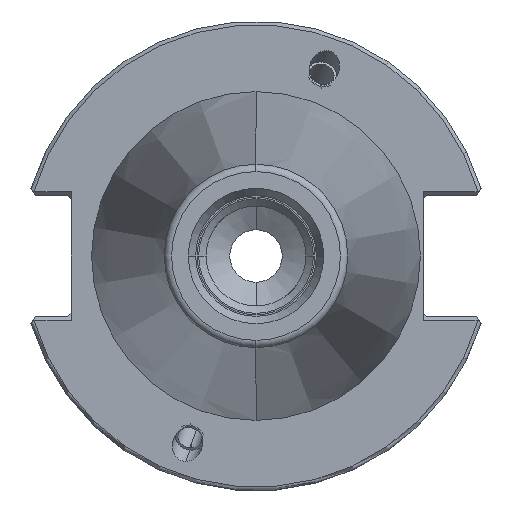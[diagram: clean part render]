
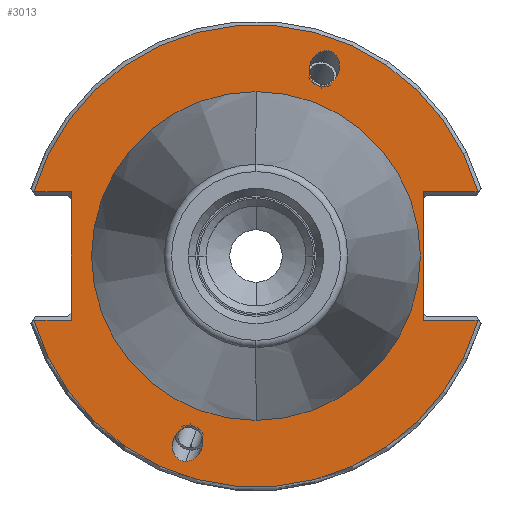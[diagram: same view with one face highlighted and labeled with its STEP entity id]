
A CAD part, left-side view. The second image highlights one B-rep face of the part: STEP entity #3013.
In plain terms, the highlighted planar face has unit normal (-1, 0, 0).
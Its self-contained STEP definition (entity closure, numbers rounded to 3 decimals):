
#116=CARTESIAN_POINT('',(3.175,0.,0.));
#117=DIRECTION('',(1.,0.,0.));
#118=DIRECTION('',(0.,1.,0.));
#119=AXIS2_PLACEMENT_3D('',#116,#117,#118);
#121=CARTESIAN_POINT('',(3.175,0.,0.));
#122=DIRECTION('',(1.,0.,0.));
#123=DIRECTION('',(0.,-1.,0.));
#124=AXIS2_PLACEMENT_3D('',#121,#122,#123);
#126=CARTESIAN_POINT('',(3.175,9.498,-27.766));
#127=CARTESIAN_POINT('',(3.175,9.257,-27.766));
#128=CARTESIAN_POINT('',(3.175,8.727,-27.663));
#129=CARTESIAN_POINT('',(3.175,7.941,-27.117));
#130=CARTESIAN_POINT('',(3.175,7.379,-26.257));
#131=CARTESIAN_POINT('',(3.175,7.151,-25.372));
#132=CARTESIAN_POINT('',(3.175,7.185,-24.486));
#133=CARTESIAN_POINT('',(3.175,7.557,-23.627));
#134=CARTESIAN_POINT('',(3.175,8.223,-23.08));
#135=CARTESIAN_POINT('',(3.175,8.731,-22.978));
#136=CARTESIAN_POINT('',(3.175,8.971,-22.978));
#138=CARTESIAN_POINT('',(3.175,8.971,-22.978));
#139=CARTESIAN_POINT('',(3.175,9.212,-22.978));
#140=CARTESIAN_POINT('',(3.175,9.742,-23.08));
#141=CARTESIAN_POINT('',(3.175,10.528,-23.627));
#142=CARTESIAN_POINT('',(3.175,11.09,-24.486));
#143=CARTESIAN_POINT('',(3.175,11.318,-25.372));
#144=CARTESIAN_POINT('',(3.175,11.284,-26.257));
#145=CARTESIAN_POINT('',(3.175,10.912,-27.117));
#146=CARTESIAN_POINT('',(3.175,10.246,-27.663));
#147=CARTESIAN_POINT('',(3.175,9.738,-27.766));
#148=CARTESIAN_POINT('',(3.175,9.498,-27.766));
#150=CARTESIAN_POINT('',(3.175,-9.498,27.766));
#151=CARTESIAN_POINT('',(3.175,-9.257,27.766));
#152=CARTESIAN_POINT('',(3.175,-8.727,27.663));
#153=CARTESIAN_POINT('',(3.175,-7.941,27.117));
#154=CARTESIAN_POINT('',(3.175,-7.379,26.257));
#155=CARTESIAN_POINT('',(3.175,-7.151,25.372));
#156=CARTESIAN_POINT('',(3.175,-7.185,24.486));
#157=CARTESIAN_POINT('',(3.175,-7.557,23.627));
#158=CARTESIAN_POINT('',(3.175,-8.223,23.08));
#159=CARTESIAN_POINT('',(3.175,-8.731,22.978));
#160=CARTESIAN_POINT('',(3.175,-8.971,22.978));
#162=CARTESIAN_POINT('',(3.175,-8.971,22.978));
#163=CARTESIAN_POINT('',(3.175,-9.212,22.978));
#164=CARTESIAN_POINT('',(3.175,-9.742,23.08));
#165=CARTESIAN_POINT('',(3.175,-10.528,23.627));
#166=CARTESIAN_POINT('',(3.175,-11.09,24.486));
#167=CARTESIAN_POINT('',(3.175,-11.318,25.372));
#168=CARTESIAN_POINT('',(3.175,-11.284,26.257));
#169=CARTESIAN_POINT('',(3.175,-10.912,27.117));
#170=CARTESIAN_POINT('',(3.175,-10.246,27.663));
#171=CARTESIAN_POINT('',(3.175,-9.738,27.766));
#172=CARTESIAN_POINT('',(3.175,-9.498,27.766));
#174=DIRECTION('',(0.,-1.,0.));
#175=VECTOR('',#174,5.017);
#176=CARTESIAN_POINT('',(3.175,30.017,8.69));
#177=LINE('',#176,#175);
#178=DIRECTION('',(0.,-1.,0.));
#179=VECTOR('',#178,7.417);
#180=CARTESIAN_POINT('',(3.175,-22.6,8.69));
#181=LINE('',#180,#179);
#182=DIRECTION('',(0.,1.,0.));
#183=VECTOR('',#182,7.417);
#184=CARTESIAN_POINT('',(3.175,-30.017,-8.69));
#185=LINE('',#184,#183);
#186=DIRECTION('',(0.,1.,0.));
#187=VECTOR('',#186,5.017);
#188=CARTESIAN_POINT('',(3.175,25.,-8.69));
#189=LINE('',#188,#187);
#653=DIRECTION('',(0.,0.,-1.));
#654=VECTOR('',#653,17.38);
#655=CARTESIAN_POINT('',(3.175,25.,8.69));
#656=LINE('',#655,#654);
#795=DIRECTION('',(0.,0.,1.));
#796=VECTOR('',#795,17.38);
#797=CARTESIAN_POINT('',(3.175,-22.6,-8.69));
#798=LINE('',#797,#796);
#875=CARTESIAN_POINT('',(3.175,0.,0.));
#876=DIRECTION('',(-1.,0.,0.));
#877=DIRECTION('',(0.,-0.961,0.278));
#878=AXIS2_PLACEMENT_3D('',#875,#876,#877);
#949=CARTESIAN_POINT('',(3.175,0.,0.));
#950=DIRECTION('',(-1.,0.,0.));
#951=DIRECTION('',(0.,0.961,-0.278));
#952=AXIS2_PLACEMENT_3D('',#949,#950,#951);
#2450=CARTESIAN_POINT('',(3.175,22.2,0.));
#2451=CARTESIAN_POINT('',(3.175,-22.2,0.));
#2452=VERTEX_POINT('',#2450);
#2453=VERTEX_POINT('',#2451);
#2516=VERTEX_POINT('',#126);
#2517=VERTEX_POINT('',#136);
#2552=CARTESIAN_POINT('',(3.175,30.017,8.69));
#2553=CARTESIAN_POINT('',(3.175,25.,8.69));
#2554=VERTEX_POINT('',#2552);
#2555=VERTEX_POINT('',#2553);
#2560=CARTESIAN_POINT('',(3.175,25.,-8.69));
#2561=CARTESIAN_POINT('',(3.175,30.017,-8.69));
#2562=VERTEX_POINT('',#2560);
#2563=VERTEX_POINT('',#2561);
#2568=CARTESIAN_POINT('',(3.175,-22.6,8.69));
#2569=CARTESIAN_POINT('',(3.175,-30.017,8.69));
#2570=VERTEX_POINT('',#2568);
#2571=VERTEX_POINT('',#2569);
#2576=CARTESIAN_POINT('',(3.175,-30.017,
-8.69));
#2577=CARTESIAN_POINT('',(3.175,-22.6,-8.69));
#2578=VERTEX_POINT('',#2576);
#2579=VERTEX_POINT('',#2577);
#2614=CARTESIAN_POINT('',(3.175,-9.498,27.766));
#2615=VERTEX_POINT('',#2614);
#2616=CARTESIAN_POINT('',(3.175,-8.971,22.978));
#2617=VERTEX_POINT('',#2616);
#2974=CARTESIAN_POINT('',(3.175,0.,0.));
#2975=DIRECTION('',(1.,0.,0.));
#2976=DIRECTION('',(0.,0.,1.));
#2977=AXIS2_PLACEMENT_3D('',#2974,#2975,#2976);
#2978=PLANE('',#2977);
#2980=ORIENTED_EDGE('',*,*,#2979,.F.);
#2982=ORIENTED_EDGE('',*,*,#2981,.F.);
#2984=ORIENTED_EDGE('',*,*,#2983,.F.);
#2986=ORIENTED_EDGE('',*,*,#2985,.F.);
#2988=ORIENTED_EDGE('',*,*,#2987,.F.);
#2990=ORIENTED_EDGE('',*,*,#2989,.F.);
#2992=ORIENTED_EDGE('',*,*,#2991,.F.);
#2994=ORIENTED_EDGE('',*,*,#2993,.F.);
#2995=EDGE_LOOP('',(#2980,#2982,#2984,#2986,#2988,#2990,#2992,#2994));
#2996=FACE_OUTER_BOUND('',#2995,.F.);
#2998=ORIENTED_EDGE('',*,*,#2997,.T.);
#3000=ORIENTED_EDGE('',*,*,#2999,.T.);
#3001=EDGE_LOOP('',(#2998,#3000));
#3002=FACE_BOUND('',#3001,.F.);
#3004=ORIENTED_EDGE('',*,*,#3003,.T.);
#3006=ORIENTED_EDGE('',*,*,#3005,.T.);
#3007=EDGE_LOOP('',(#3004,#3006));
#3008=FACE_BOUND('',#3007,.F.);
#3009=ORIENTED_EDGE('',*,*,#2927,.F.);
#3010=ORIENTED_EDGE('',*,*,#2942,.F.);
#3011=EDGE_LOOP('',(#3009,#3010));
#3012=FACE_BOUND('',#3011,.F.);
#3013=ADVANCED_FACE('',(#2996,#3002,#3008,#3012),#2978,.F.);
#120=CIRCLE('',#119,22.2);
#125=CIRCLE('',#124,22.2);
#137=B_SPLINE_CURVE_WITH_KNOTS('',3,(#126,#127,#128,#129,#130,#131,#132,#133,
#134,#135,#136),.UNSPECIFIED.,.F.,.F.,(4,1,1,1,1,1,1,1,4),(0.,0.125,0.25,
0.375,0.5,0.625,0.75,0.875,1.),.UNSPECIFIED.);
#149=B_SPLINE_CURVE_WITH_KNOTS('',3,(#138,#139,#140,#141,#142,#143,#144,#145,
#146,#147,#148),.UNSPECIFIED.,.F.,.F.,(4,1,1,1,1,1,1,1,4),(0.,0.125,0.25,
0.375,0.5,0.625,0.75,0.875,1.),.UNSPECIFIED.);
#161=B_SPLINE_CURVE_WITH_KNOTS('',3,(#150,#151,#152,#153,#154,#155,#156,#157,
#158,#159,#160),.UNSPECIFIED.,.F.,.F.,(4,1,1,1,1,1,1,1,4),(0.,0.125,0.25,
0.375,0.5,0.625,0.75,0.875,1.),.UNSPECIFIED.);
#173=B_SPLINE_CURVE_WITH_KNOTS('',3,(#162,#163,#164,#165,#166,#167,#168,#169,
#170,#171,#172),.UNSPECIFIED.,.F.,.F.,(4,1,1,1,1,1,1,1,4),(0.,0.125,0.25,
0.375,0.5,0.625,0.75,0.875,1.),.UNSPECIFIED.);
#879=CIRCLE('',#878,31.25);
#953=CIRCLE('',#952,31.25);
#2927=EDGE_CURVE('',#2452,#2453,#120,.T.);
#2942=EDGE_CURVE('',#2453,#2452,#125,.T.);
#2979=EDGE_CURVE('',#2554,#2555,#177,.T.);
#2981=EDGE_CURVE('',#2571,#2554,#879,.T.);
#2983=EDGE_CURVE('',#2570,#2571,#181,.T.);
#2985=EDGE_CURVE('',#2579,#2570,#798,.T.);
#2987=EDGE_CURVE('',#2578,#2579,#185,.T.);
#2989=EDGE_CURVE('',#2563,#2578,#953,.T.);
#2991=EDGE_CURVE('',#2562,#2563,#189,.T.);
#2993=EDGE_CURVE('',#2555,#2562,#656,.T.);
#2997=EDGE_CURVE('',#2516,#2517,#137,.T.);
#2999=EDGE_CURVE('',#2517,#2516,#149,.T.);
#3003=EDGE_CURVE('',#2615,#2617,#161,.T.);
#3005=EDGE_CURVE('',#2617,#2615,#173,.T.);
